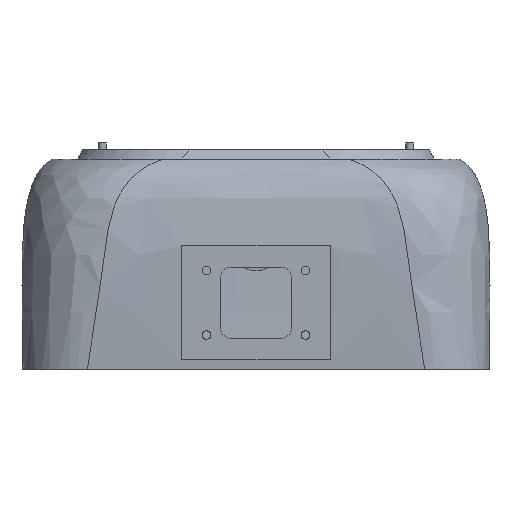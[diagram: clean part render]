
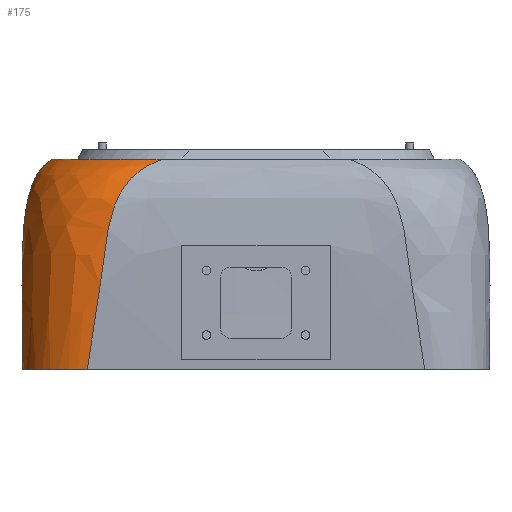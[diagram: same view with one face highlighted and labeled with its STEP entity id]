
A CAD part, front view. The second image highlights one B-rep face of the part: STEP entity #175.
In plain terms, the highlighted free-form (B-spline) face has degree [9, 4] with [10, 5] control points.
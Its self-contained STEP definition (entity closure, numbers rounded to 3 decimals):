
#24 = VERTEX_POINT('',#25);
#25 = CARTESIAN_POINT('',(-94.211,-77.5,13.334));
#41 = VERTEX_POINT('',#42);
#42 = CARTESIAN_POINT('',(-94.,-79.,0.));
#55 = EDGE_CURVE('',#41,#24,#56,.T.);
#56 = ( BOUNDED_CURVE() B_SPLINE_CURVE(4,(#57,#58,#59,#60,#61),
.UNSPECIFIED.,.F.,.F.) B_SPLINE_CURVE_WITH_KNOTS((5,5),(0.,1.),
.PIECEWISE_BEZIER_KNOTS.) CURVE() GEOMETRIC_REPRESENTATION_ITEM() 
RATIONAL_B_SPLINE_CURVE((1.,1.,1.,1.,1.)) REPRESENTATION_ITEM('') );
#57 = CARTESIAN_POINT('',(-94.,-79.,0.));
#58 = CARTESIAN_POINT('',(-94.611,-76.923,
    24.031));
#59 = CARTESIAN_POINT('',(-93.489,-70.668,
    42.377));
#60 = CARTESIAN_POINT('',(-98.179,-80.926,
    75.828));
#61 = CARTESIAN_POINT('',(-82.,-50.,84.7));
#117 = EDGE_CURVE('',#118,#24,#120,.T.);
#118 = VERTEX_POINT('',#119);
#119 = CARTESIAN_POINT('',(-94.277,-77.5,23.));
#120 = B_SPLINE_CURVE_WITH_KNOTS('',6,(#121,#122,#123,#124,#125,#126,
    #127),.UNSPECIFIED.,.F.,.F.,(7,7),(0.,1.),.PIECEWISE_BEZIER_KNOTS.);
#121 = CARTESIAN_POINT('',(-94.277,-77.5,23.));
#122 = CARTESIAN_POINT('',(-94.27,-77.5,21.389));
#123 = CARTESIAN_POINT('',(-94.262,-77.5,19.778));
#124 = CARTESIAN_POINT('',(-94.252,-77.5,18.167));
#125 = CARTESIAN_POINT('',(-94.241,-77.5,16.556));
#126 = CARTESIAN_POINT('',(-94.228,-77.5,14.945));
#127 = CARTESIAN_POINT('',(-94.211,-77.5,13.334));
#175 = ADVANCED_FACE('',(#176),#245,.T.);
#176 = FACE_BOUND('',#177,.T.);
#177 = EDGE_LOOP('',(#178,#179,#194,#204,#219,#229,#244));
#178 = ORIENTED_EDGE('',*,*,#55,.F.);
#179 = ORIENTED_EDGE('',*,*,#180,.T.);
#180 = EDGE_CURVE('',#41,#181,#183,.T.);
#181 = VERTEX_POINT('',#182);
#182 = CARTESIAN_POINT('',(-68.,-105.,0.));
#183 = B_SPLINE_CURVE_WITH_KNOTS('',9,(#184,#185,#186,#187,#188,#189,
    #190,#191,#192,#193),.UNSPECIFIED.,.F.,.F.,(10,10),(1.,2.),
  .PIECEWISE_BEZIER_KNOTS.);
#184 = CARTESIAN_POINT('',(-94.,-79.,0.));
#185 = CARTESIAN_POINT('',(-94.,-83.538,
    0.));
#186 = CARTESIAN_POINT('',(-93.109,-88.076,
    0.));
#187 = CARTESIAN_POINT('',(-91.327,-92.414,
    0.));
#188 = CARTESIAN_POINT('',(-88.706,-96.352,
    0.));
#189 = CARTESIAN_POINT('',(-85.352,-99.706,
    0.));
#190 = CARTESIAN_POINT('',(-81.414,-102.327,
    0.));
#191 = CARTESIAN_POINT('',(-77.076,-104.109,
    0.));
#192 = CARTESIAN_POINT('',(-72.538,-105.,
    0.));
#193 = CARTESIAN_POINT('',(-68.,-105.,0.));
#194 = ORIENTED_EDGE('',*,*,#195,.T.);
#195 = EDGE_CURVE('',#181,#196,#198,.T.);
#196 = VERTEX_POINT('',#197);
#197 = CARTESIAN_POINT('',(-37.,-95.,84.7));
#198 = ( BOUNDED_CURVE() B_SPLINE_CURVE(4,(#199,#200,#201,#202,#203),
.UNSPECIFIED.,.F.,.F.) B_SPLINE_CURVE_WITH_KNOTS((5,5),(0.,1.),
.PIECEWISE_BEZIER_KNOTS.) CURVE() GEOMETRIC_REPRESENTATION_ITEM() 
RATIONAL_B_SPLINE_CURVE((1.,1.,1.,1.,1.)) REPRESENTATION_ITEM('') );
#199 = CARTESIAN_POINT('',(-68.,-105.,0.));
#200 = CARTESIAN_POINT('',(-65.018,-106.516,
    24.031));
#201 = CARTESIAN_POINT('',(-57.235,-106.922,
    42.377));
#202 = CARTESIAN_POINT('',(-68.,-111.106,
    75.828));
#203 = CARTESIAN_POINT('',(-37.,-95.,84.7));
#204 = ORIENTED_EDGE('',*,*,#205,.F.);
#205 = EDGE_CURVE('',#206,#196,#208,.T.);
#206 = VERTEX_POINT('',#207);
#207 = CARTESIAN_POINT('',(-82.,-50.,84.7));
#208 = B_SPLINE_CURVE_WITH_KNOTS('',9,(#209,#210,#211,#212,#213,#214,
    #215,#216,#217,#218),.UNSPECIFIED.,.F.,.F.,(10,10),(1.,2.),
  .PIECEWISE_BEZIER_KNOTS.);
#209 = CARTESIAN_POINT('',(-82.,-50.,84.7));
#210 = CARTESIAN_POINT('',(-82.,-57.854,
    84.7));
#211 = CARTESIAN_POINT('',(-80.458,-65.708,84.7)
  );
#212 = CARTESIAN_POINT('',(-77.374,-73.216,
    84.7));
#213 = CARTESIAN_POINT('',(-72.838,-80.032,
    84.7));
#214 = CARTESIAN_POINT('',(-67.032,-85.838,
    84.7));
#215 = CARTESIAN_POINT('',(-60.216,-90.374,
    84.7));
#216 = CARTESIAN_POINT('',(-52.708,-93.458,
    84.7));
#217 = CARTESIAN_POINT('',(-44.854,-95.,84.7));
#218 = CARTESIAN_POINT('',(-37.,-95.,84.7));
#219 = ORIENTED_EDGE('',*,*,#220,.F.);
#220 = EDGE_CURVE('',#221,#206,#223,.T.);
#221 = VERTEX_POINT('',#222);
#222 = CARTESIAN_POINT('',(-94.344,-75.715,
    28.857));
#223 = ( BOUNDED_CURVE() B_SPLINE_CURVE(4,(#224,#225,#226,#227,#228),
.UNSPECIFIED.,.F.,.F.) B_SPLINE_CURVE_WITH_KNOTS((5,5),(0.,1.),
.PIECEWISE_BEZIER_KNOTS.) CURVE() GEOMETRIC_REPRESENTATION_ITEM() 
RATIONAL_B_SPLINE_CURVE((1.,1.,1.,1.,1.)) REPRESENTATION_ITEM('') );
#224 = CARTESIAN_POINT('',(-94.,-79.,0.));
#225 = CARTESIAN_POINT('',(-94.611,-76.923,
    24.031));
#226 = CARTESIAN_POINT('',(-93.489,-70.668,
    42.377));
#227 = CARTESIAN_POINT('',(-98.179,-80.926,
    75.828));
#228 = CARTESIAN_POINT('',(-82.,-50.,84.7));
#229 = ORIENTED_EDGE('',*,*,#230,.T.);
#230 = EDGE_CURVE('',#221,#118,#231,.T.);
#231 = B_SPLINE_CURVE_WITH_KNOTS('',6,(#232,#233,#234,#235,#236,#237,
    #238,#239,#240,#241,#242,#243),.UNSPECIFIED.,.F.,.F.,(7,5,7),(0.,
    0.382,1.),.UNSPECIFIED.);
#232 = CARTESIAN_POINT('',(-94.344,-75.715,
    28.857));
#233 = CARTESIAN_POINT('',(-94.342,-75.936,
    28.528));
#234 = CARTESIAN_POINT('',(-94.338,-76.142,
    28.19));
#235 = CARTESIAN_POINT('',(-94.334,-76.332,
    27.842));
#236 = CARTESIAN_POINT('',(-94.328,-76.507,
    27.486));
#237 = CARTESIAN_POINT('',(-94.323,-76.665,
    27.122));
#238 = CARTESIAN_POINT('',(-94.308,-77.035,
    26.155));
#239 = CARTESIAN_POINT('',(-94.298,-77.22,
    25.541));
#240 = CARTESIAN_POINT('',(-94.29,-77.36,
    24.914));
#241 = CARTESIAN_POINT('',(-94.284,-77.453,
    24.279));
#242 = CARTESIAN_POINT('',(-94.279,-77.5,23.64));
#243 = CARTESIAN_POINT('',(-94.277,-77.5,23.));
#244 = ORIENTED_EDGE('',*,*,#117,.T.);
#245 = ( BOUNDED_SURFACE() B_SPLINE_SURFACE(9,4,(
    (#246,#247,#248,#249,#250)
    ,(#251,#252,#253,#254,#255)
    ,(#256,#257,#258,#259,#260)
    ,(#261,#262,#263,#264,#265)
    ,(#266,#267,#268,#269,#270)
    ,(#271,#272,#273,#274,#275)
    ,(#276,#277,#278,#279,#280)
    ,(#281,#282,#283,#284,#285)
    ,(#286,#287,#288,#289,#290)
    ,(#291,#292,#293,#294,#295
)),.UNSPECIFIED.,.F.,.F.,.F.) B_SPLINE_SURFACE_WITH_KNOTS((10,10),(5,5),
  (1.,2.),(0.,1.),.PIECEWISE_BEZIER_KNOTS.) 
GEOMETRIC_REPRESENTATION_ITEM() RATIONAL_B_SPLINE_SURFACE((
    (1.,1.,1.,1.,1.)
    ,(1.,1.,1.,1.,1.)
    ,(1.,1.,1.,1.,1.)
    ,(1.,1.,1.,1.,1.)
    ,(1.,1.,1.,1.,1.)
    ,(1.,1.,1.,1.,1.)
    ,(1.,1.,1.,1.,1.)
    ,(1.,1.,1.,1.,1.)
    ,(1.,1.,1.,1.,1.)
,(1.,1.,1.,1.,1.))) REPRESENTATION_ITEM('') SURFACE() );
#246 = CARTESIAN_POINT('',(-94.,-79.,0.));
#247 = CARTESIAN_POINT('',(-94.611,-76.923,
    24.031));
#248 = CARTESIAN_POINT('',(-93.489,-70.668,
    42.377));
#249 = CARTESIAN_POINT('',(-98.179,-80.926,
    75.828));
#250 = CARTESIAN_POINT('',(-82.,-50.,84.7));
#251 = CARTESIAN_POINT('',(-94.,-83.538,
    0.));
#252 = CARTESIAN_POINT('',(-94.611,-82.088,
    24.031));
#253 = CARTESIAN_POINT('',(-93.489,-76.995,
    42.377));
#254 = CARTESIAN_POINT('',(-98.179,-86.194,
    75.828));
#255 = CARTESIAN_POINT('',(-82.,-57.854,
    84.7));
#256 = CARTESIAN_POINT('',(-93.109,-88.076,
    0.));
#257 = CARTESIAN_POINT('',(-93.597,-87.253,
    24.031));
#258 = CARTESIAN_POINT('',(-92.247,-83.323,
    42.377));
#259 = CARTESIAN_POINT('',(-97.145,-91.461,
    75.828));
#260 = CARTESIAN_POINT('',(-80.458,-65.708,84.7)
  );
#261 = CARTESIAN_POINT('',(-91.327,-92.414,
    0.));
#262 = CARTESIAN_POINT('',(-91.568,-92.19,
    24.031));
#263 = CARTESIAN_POINT('',(-89.762,-89.372,
    42.377));
#264 = CARTESIAN_POINT('',(-95.077,-96.496,
    75.828));
#265 = CARTESIAN_POINT('',(-77.374,-73.216,
    84.7));
#266 = CARTESIAN_POINT('',(-88.706,-96.352,
    0.));
#267 = CARTESIAN_POINT('',(-88.586,-96.672,
    24.031));
#268 = CARTESIAN_POINT('',(-86.108,-94.863,
    42.377));
#269 = CARTESIAN_POINT('',(-92.035,-101.067,
    75.828));
#270 = CARTESIAN_POINT('',(-72.838,-80.032,
    84.7));
#271 = CARTESIAN_POINT('',(-85.352,-99.706,
    0.));
#272 = CARTESIAN_POINT('',(-84.767,-100.49,
    24.031));
#273 = CARTESIAN_POINT('',(-81.43,-99.541,
    42.377));
#274 = CARTESIAN_POINT('',(-88.141,-104.961,
    75.828));
#275 = CARTESIAN_POINT('',(-67.032,-85.838,
    84.7));
#276 = CARTESIAN_POINT('',(-81.414,-102.327,
    0.));
#277 = CARTESIAN_POINT('',(-80.285,-103.473,
    24.031));
#278 = CARTESIAN_POINT('',(-75.939,-103.195,
    42.377));
#279 = CARTESIAN_POINT('',(-83.57,-108.003,75.828
    ));
#280 = CARTESIAN_POINT('',(-60.216,-90.374,
    84.7));
#281 = CARTESIAN_POINT('',(-77.076,-104.109,
    0.));
#282 = CARTESIAN_POINT('',(-75.348,-105.502,
    24.031));
#283 = CARTESIAN_POINT('',(-69.89,-105.68,
    42.377));
#284 = CARTESIAN_POINT('',(-78.535,-110.071,
    75.828));
#285 = CARTESIAN_POINT('',(-52.708,-93.458,
    84.7));
#286 = CARTESIAN_POINT('',(-72.538,-105.,
    0.));
#287 = CARTESIAN_POINT('',(-70.183,-106.516,
    24.031));
#288 = CARTESIAN_POINT('',(-63.562,-106.922,
    42.377));
#289 = CARTESIAN_POINT('',(-73.267,-111.106,
    75.828));
#290 = CARTESIAN_POINT('',(-44.854,-95.,84.7));
#291 = CARTESIAN_POINT('',(-68.,-105.,0.));
#292 = CARTESIAN_POINT('',(-65.018,-106.516,
    24.031));
#293 = CARTESIAN_POINT('',(-57.235,-106.922,
    42.377));
#294 = CARTESIAN_POINT('',(-68.,-111.106,
    75.828));
#295 = CARTESIAN_POINT('',(-37.,-95.,84.7));
